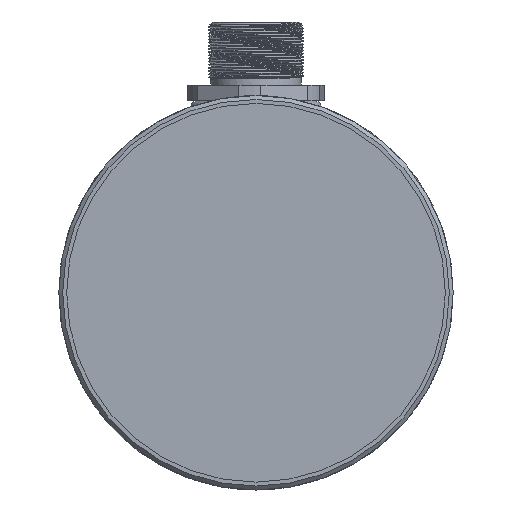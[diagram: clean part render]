
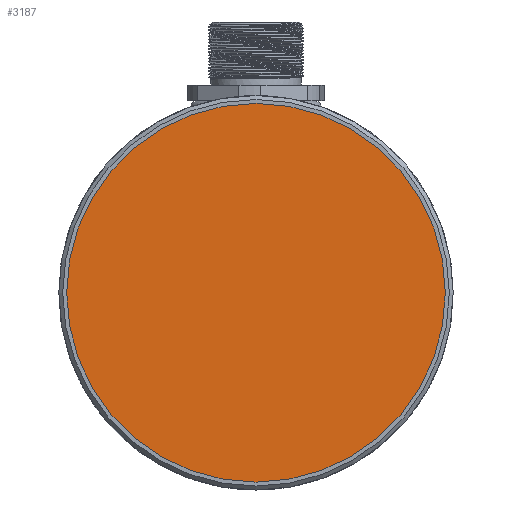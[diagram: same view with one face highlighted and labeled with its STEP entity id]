
A CAD part, left-side view. The second image highlights one B-rep face of the part: STEP entity #3187.
In plain terms, the highlighted planar face has unit normal (-1, 0, 0).
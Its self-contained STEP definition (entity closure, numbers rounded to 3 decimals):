
#842=CIRCLE('',#3387,24.);
#933=VERTEX_POINT('',#4131);
#1472=EDGE_CURVE('',#933,#933,#842,.T.);
#1892=ORIENTED_EDGE('',*,*,#1472,.T.);
#2711=EDGE_LOOP('',(#1892));
#2950=FACE_BOUND('',#2711,.T.);
#3187=ADVANCED_FACE('',(#2950),#18828,.T.);
#3387=AXIS2_PLACEMENT_3D('',#4130,#3619,#3620);
#3389=AXIS2_PLACEMENT_3D('',#4134,#3623,$);
#3619=DIRECTION('',(-1.,0.,0.));
#3620=DIRECTION('',(0.,0.,24.));
#3623=DIRECTION('',(-1.,0.,0.));
#4130=CARTESIAN_POINT('',(1.,0.,0.));
#4131=CARTESIAN_POINT('',(1.,0.,24.));
#4134=CARTESIAN_POINT('',(1.,0.,0.));
#18828=PLANE('',#3389);
